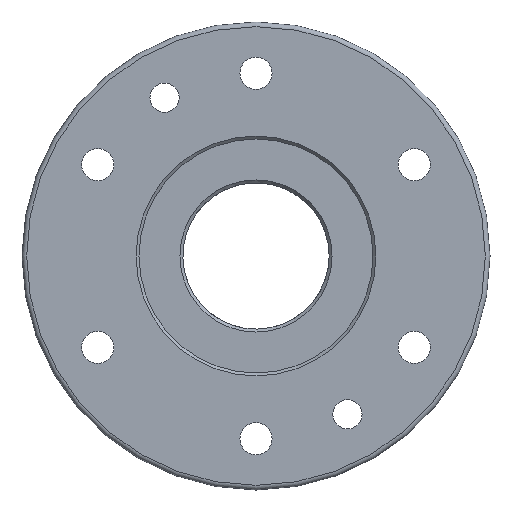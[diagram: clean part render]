
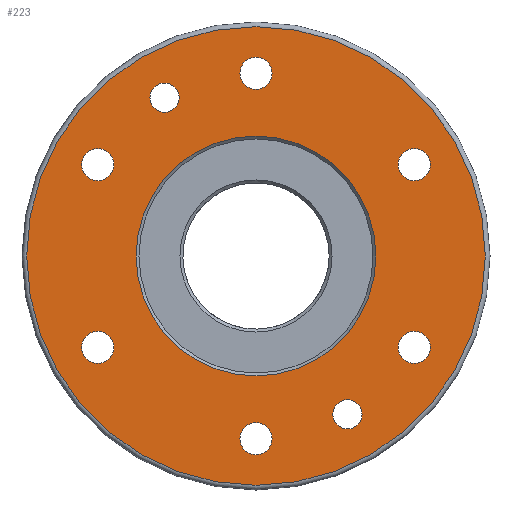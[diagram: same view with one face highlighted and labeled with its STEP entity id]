
A CAD part, front view. The second image highlights one B-rep face of the part: STEP entity #223.
In plain terms, the highlighted planar face has unit normal (0, -1, 0).
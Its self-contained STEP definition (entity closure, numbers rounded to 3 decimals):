
#73=CARTESIAN_POINT('',(-78.4,0.,0.0));
#74=VERTEX_POINT('',#73);
#75=CARTESIAN_POINT('',(0.0,0.,0.0));
#76=DIRECTION('',(0.0,1.0,0.0));
#77=DIRECTION('',(1.0,0.0,0.0));
#78=AXIS2_PLACEMENT_3D('',#75,#76,#77);
#79=CIRCLE('',#78,78.4);
#80=EDGE_CURVE('',#74,#74,#79,.T.);
#116=CARTESIAN_POINT('',(-52.5,0.,0.0));
#117=DIRECTION('',(0.0,-1.0,0.0));
#118=DIRECTION('',(0.0,0.0,-1.0));
#119=AXIS2_PLACEMENT_3D('',#116,#117,#118);
#120=PLANE('',#119);
#121=ORIENTED_EDGE('',*,*,#80,.F.);
#122=EDGE_LOOP('',(#121));
#123=FACE_OUTER_BOUND('',#122,.T.);
#124=CARTESIAN_POINT('',(41.0,0.,0.));
#125=VERTEX_POINT('',#124);
#126=CARTESIAN_POINT('',(0.0,0.,0.0));
#127=DIRECTION('',(0.0,-1.0,0.0));
#128=DIRECTION('',(-1.0,0.0,0.0));
#129=AXIS2_PLACEMENT_3D('',#126,#127,#128);
#130=CIRCLE('',#129,41.0);
#131=EDGE_CURVE('',#125,#125,#130,.T.);
#132=ORIENTED_EDGE('',*,*,#131,.F.);
#133=EDGE_LOOP('',(#132));
#134=FACE_BOUND('',#133,.T.);
#135=CARTESIAN_POINT('',(-5.5,0.0,-62.5));
#136=VERTEX_POINT('',#135);
#137=CARTESIAN_POINT('',(0.0,0.0,-62.5));
#138=DIRECTION('',(0.0,1.0,0.0));
#139=DIRECTION('',(1.0,0.0,0.0));
#140=AXIS2_PLACEMENT_3D('',#137,#138,#139);
#141=CIRCLE('',#140,5.5);
#142=EDGE_CURVE('',#136,#136,#141,.T.);
#143=ORIENTED_EDGE('',*,*,#142,.T.);
#144=EDGE_LOOP('',(#143));
#145=FACE_BOUND('',#144,.T.);
#146=CARTESIAN_POINT('',(-59.627,0.0,-31.25));
#147=VERTEX_POINT('',#146);
#148=CARTESIAN_POINT('',(-54.127,0.0,-31.25));
#149=DIRECTION('',(0.0,1.0,0.0));
#150=DIRECTION('',(1.0,0.0,0.0));
#151=AXIS2_PLACEMENT_3D('',#148,#149,#150);
#152=CIRCLE('',#151,5.5);
#153=EDGE_CURVE('',#147,#147,#152,.T.);
#154=ORIENTED_EDGE('',*,*,#153,.T.);
#155=EDGE_LOOP('',(#154));
#156=FACE_BOUND('',#155,.T.);
#157=CARTESIAN_POINT('',(-59.627,0.0,31.25));
#158=VERTEX_POINT('',#157);
#159=CARTESIAN_POINT('',(-54.127,0.0,31.25));
#160=DIRECTION('',(0.0,1.0,0.0));
#161=DIRECTION('',(1.0,0.0,0.0));
#162=AXIS2_PLACEMENT_3D('',#159,#160,#161);
#163=CIRCLE('',#162,5.5);
#164=EDGE_CURVE('',#158,#158,#163,.T.);
#165=ORIENTED_EDGE('',*,*,#164,.T.);
#166=EDGE_LOOP('',(#165));
#167=FACE_BOUND('',#166,.T.);
#168=CARTESIAN_POINT('',(-5.5,0.0,62.5));
#169=VERTEX_POINT('',#168);
#170=CARTESIAN_POINT('',(0.,0.0,62.5));
#171=DIRECTION('',(0.0,1.0,0.0));
#172=DIRECTION('',(1.0,0.0,0.0));
#173=AXIS2_PLACEMENT_3D('',#170,#171,#172);
#174=CIRCLE('',#173,5.5);
#175=EDGE_CURVE('',#169,#169,#174,.T.);
#176=ORIENTED_EDGE('',*,*,#175,.T.);
#177=EDGE_LOOP('',(#176));
#178=FACE_BOUND('',#177,.T.);
#179=CARTESIAN_POINT('',(48.627,0.0,31.25));
#180=VERTEX_POINT('',#179);
#181=CARTESIAN_POINT('',(54.127,0.0,31.25));
#182=DIRECTION('',(0.0,1.0,0.0));
#183=DIRECTION('',(1.0,0.0,0.0));
#184=AXIS2_PLACEMENT_3D('',#181,#182,#183);
#185=CIRCLE('',#184,5.5);
#186=EDGE_CURVE('',#180,#180,#185,.T.);
#187=ORIENTED_EDGE('',*,*,#186,.T.);
#188=EDGE_LOOP('',(#187));
#189=FACE_BOUND('',#188,.T.);
#190=CARTESIAN_POINT('',(48.627,0.0,-31.25));
#191=VERTEX_POINT('',#190);
#192=CARTESIAN_POINT('',(54.127,0.0,-31.25));
#193=DIRECTION('',(0.0,1.0,0.0));
#194=DIRECTION('',(1.0,0.0,0.0));
#195=AXIS2_PLACEMENT_3D('',#192,#193,#194);
#196=CIRCLE('',#195,5.5);
#197=EDGE_CURVE('',#191,#191,#196,.T.);
#198=ORIENTED_EDGE('',*,*,#197,.T.);
#199=EDGE_LOOP('',(#198));
#200=FACE_BOUND('',#199,.T.);
#201=CARTESIAN_POINT('',(-36.25,0.0,54.127));
#202=VERTEX_POINT('',#201);
#203=CARTESIAN_POINT('',(-31.25,0.0,54.127));
#204=DIRECTION('',(0.0,1.0,0.0));
#205=DIRECTION('',(1.0,0.0,0.0));
#206=AXIS2_PLACEMENT_3D('',#203,#204,#205);
#207=CIRCLE('',#206,5.0);
#208=EDGE_CURVE('',#202,#202,#207,.T.);
#209=ORIENTED_EDGE('',*,*,#208,.T.);
#210=EDGE_LOOP('',(#209));
#211=FACE_BOUND('',#210,.T.);
#212=CARTESIAN_POINT('',(26.25,0.0,-54.127));
#213=VERTEX_POINT('',#212);
#214=CARTESIAN_POINT('',(31.25,0.0,-54.127));
#215=DIRECTION('',(0.0,1.0,0.0));
#216=DIRECTION('',(1.0,0.0,0.0));
#217=AXIS2_PLACEMENT_3D('',#214,#215,#216);
#218=CIRCLE('',#217,5.0);
#219=EDGE_CURVE('',#213,#213,#218,.T.);
#220=ORIENTED_EDGE('',*,*,#219,.T.);
#221=EDGE_LOOP('',(#220));
#222=FACE_BOUND('',#221,.T.);
#223=ADVANCED_FACE('',(#123,#134,#145,#156,#167,#178,#189,#200,#211,#222),#120,.T.);
